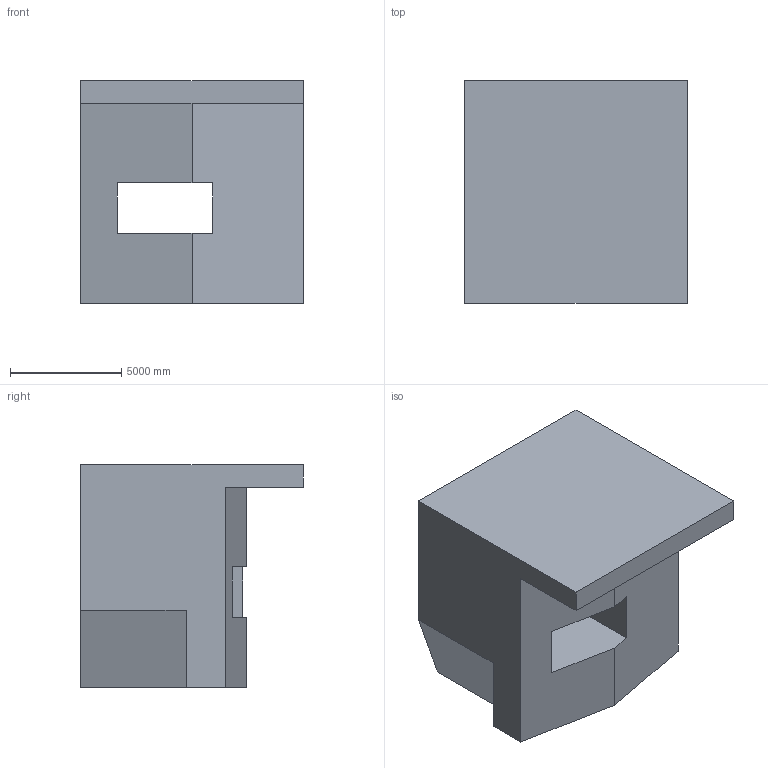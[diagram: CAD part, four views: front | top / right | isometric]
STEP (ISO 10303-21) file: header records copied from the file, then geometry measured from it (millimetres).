
FILE_DESCRIPTION (( 'STEP AP203' ), '1' );
FILE_NAME ('72.STEP', '2022-08-31T11:24:20', ( 'user' ), ( '' ), 'SwSTEP 2.0', 'SolidWorks 2021', '' );
FILE_SCHEMA (( 'CONFIG_CONTROL_DESIGN' ));
Length unit declared in the file: centimetre
Products named in the file (1): 72
Bounding box: 10000 x 10000 x 10000 mm (x, y, z)
Volume: 632105895705.8 mm3; surface area: 619873175.7 mm2
Topology: 1 solids, 1 shells, 20 faces, 57 edges, 38 vertices
Faces by surface type: plane 20
Entity records: 722 total; most frequent: CARTESIAN_POINT 116, ORIENTED_EDGE 114, DIRECTION 99, EDGE_CURVE 57, VECTOR 57, LINE 57, VERTEX_POINT 38, EDGE_LOOP 21
